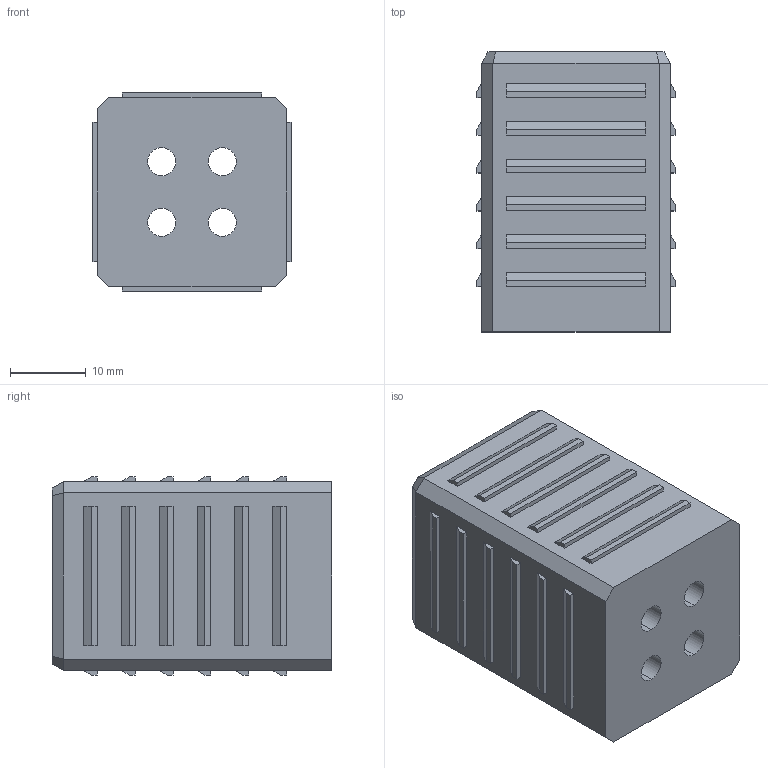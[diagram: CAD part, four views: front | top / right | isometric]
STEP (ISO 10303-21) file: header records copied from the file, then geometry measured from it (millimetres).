
FILE_DESCRIPTION (( 'STEP AP203' ), '1' );
FILE_NAME ('013.030.104.STEP', '2020-09-21T07:33:40', ( '' ), ( '' ), 'SwSTEP 2.0', 'SolidWorks 2018', '' );
FILE_SCHEMA (( 'CONFIG_CONTROL_DESIGN' ));
Length unit declared in the file: millimetre
Products named in the file (1): 013.030.104
Bounding box: 26.2 x 37 x 26.2 mm (x, y, z)
Volume: 8365.1 mm3; surface area: 9047.8 mm2
Topology: 1 solids, 1 shells, 204 faces, 520 edges, 344 vertices
Faces by surface type: plane 176, cylinder 28
Entity records: 6169 total; most frequent: CARTESIAN_POINT 1069, ORIENTED_EDGE 1040, DIRECTION 986, EDGE_CURVE 520, LINE 464, VECTOR 464, VERTEX_POINT 344, AXIS2_PLACEMENT_3D 261
